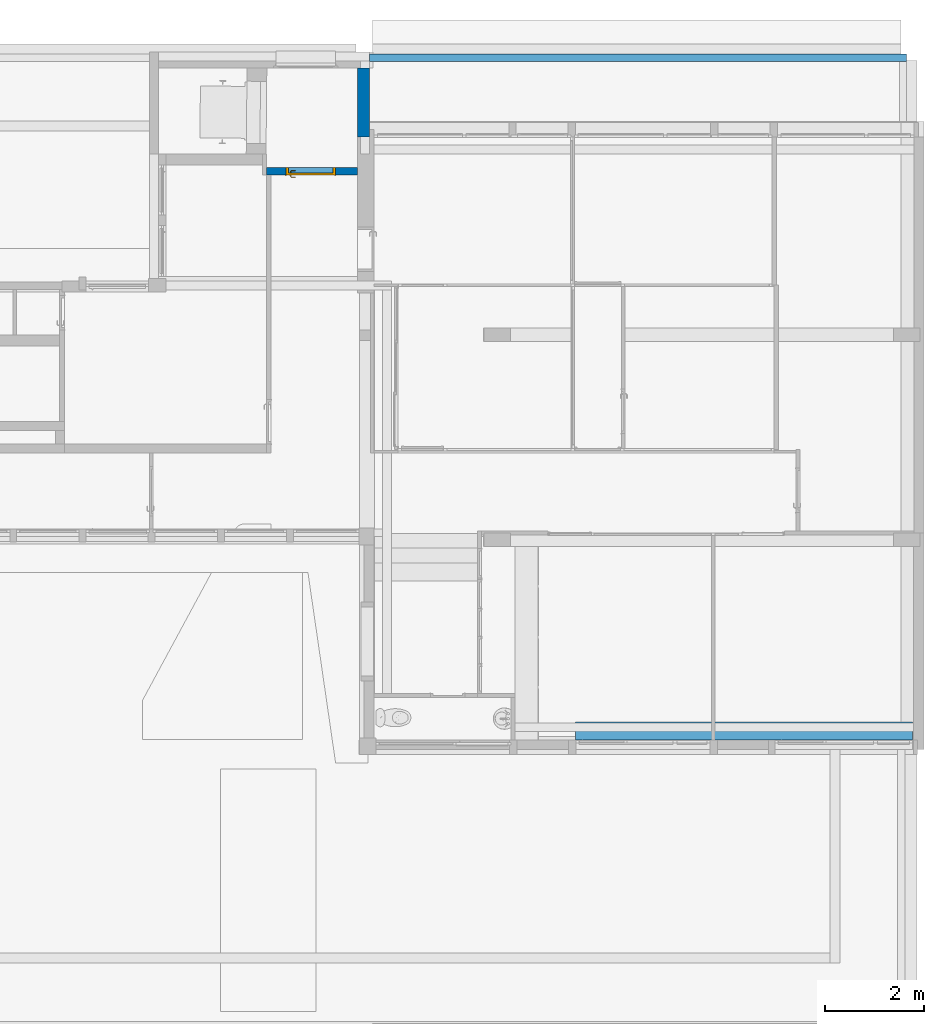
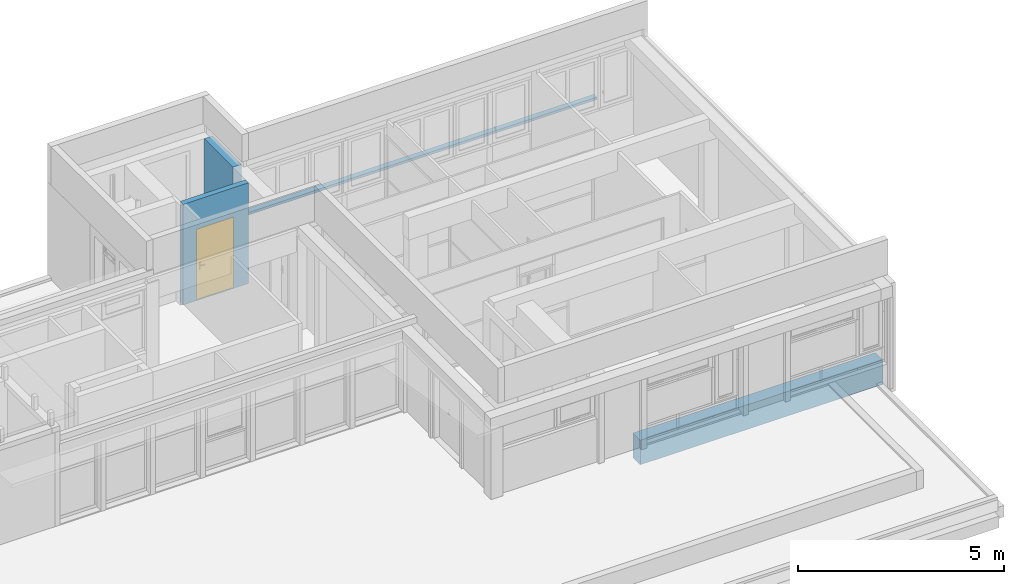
# One storey, part 25 of 49: 4 walls, 1 door, 1 opening.
"""IFC4 building model written with IfcOpenShell, lengths in metres."""

from ifc_helpers import new_model, entity, si_unit, converted_unit, derived_unit, direction, frame, origin, place, context, subcontext, project, spatial, indexed_curve, outline, extrude, polygons, source, transform, mapped, material, material_list, layer, layer_set, constituent, constituent_set, type_object, type_shapes, element, fill, save


model = new_model("IFC4")

# Units and contexts
model_context = context("Model", 3, precision=1e-05, world=origin(), true_north=direction((6.12303176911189e-17, 1.0)))
body_context = subcontext(model_context, "Body", "Model", "MODEL_VIEW")
ifc_project = project(units=[si_unit("LENGTHUNIT", "METRE"), si_unit("AREAUNIT", "SQUARE_METRE"), si_unit("VOLUMEUNIT", "CUBIC_METRE"), converted_unit("PLANEANGLEUNIT", "DEGREE", entity("IfcRatioMeasure", 0.0174532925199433), si_unit("PLANEANGLEUNIT", "RADIAN"), dimensions=[0, 0, 0, 0, 0, 0, 0]), si_unit("MASSUNIT", "GRAM", prefix="KILO"), derived_unit("MASSDENSITYUNIT", [(si_unit("MASSUNIT", "GRAM", prefix="KILO"), 1), (si_unit("LENGTHUNIT", "METRE"), -3)]), derived_unit("MOMENTOFINERTIAUNIT", [(si_unit("LENGTHUNIT", "METRE"), 4)]), si_unit("TIMEUNIT", "SECOND"), si_unit("FREQUENCYUNIT", "HERTZ"), si_unit("THERMODYNAMICTEMPERATUREUNIT", "DEGREE_CELSIUS"), derived_unit("THERMALTRANSMITTANCEUNIT", [(si_unit("MASSUNIT", "GRAM", prefix="KILO"), 1), (si_unit("THERMODYNAMICTEMPERATUREUNIT", "KELVIN"), -1), (si_unit("TIMEUNIT", "SECOND"), -3)]), derived_unit("VOLUMETRICFLOWRATEUNIT", [(si_unit("LENGTHUNIT", "METRE"), 3), (si_unit("TIMEUNIT", "SECOND"), -1)]), si_unit("ELECTRICCURRENTUNIT", "AMPERE"), si_unit("ELECTRICVOLTAGEUNIT", "VOLT"), si_unit("POWERUNIT", "WATT"), si_unit("FORCEUNIT", "NEWTON", prefix="KILO"), si_unit("ILLUMINANCEUNIT", "LUX"), si_unit("LUMINOUSFLUXUNIT", "LUMEN"), si_unit("LUMINOUSINTENSITYUNIT", "CANDELA"), derived_unit("USERDEFINED", [(si_unit("MASSUNIT", "GRAM", prefix="KILO"), -1), (si_unit("LENGTHUNIT", "METRE"), -2), (si_unit("TIMEUNIT", "SECOND"), 3), (si_unit("LUMINOUSFLUXUNIT", "LUMEN"), 1)]), derived_unit("LINEARVELOCITYUNIT", [(si_unit("LENGTHUNIT", "METRE"), 1), (si_unit("TIMEUNIT", "SECOND"), -1)]), si_unit("PRESSUREUNIT", "PASCAL"), derived_unit("USERDEFINED", [(si_unit("LENGTHUNIT", "METRE"), -2), (si_unit("MASSUNIT", "GRAM", prefix="KILO"), 1), (si_unit("TIMEUNIT", "SECOND"), -2)]), derived_unit("LINEARFORCEUNIT", [(si_unit("MASSUNIT", "GRAM", prefix="KILO"), 1), (si_unit("LENGTHUNIT", "METRE"), 1), (si_unit("TIMEUNIT", "SECOND"), -2), (si_unit("LENGTHUNIT", "METRE"), -1)]), derived_unit("PLANARFORCEUNIT", [(si_unit("MASSUNIT", "GRAM", prefix="KILO"), 1), (si_unit("LENGTHUNIT", "METRE"), 1), (si_unit("TIMEUNIT", "SECOND"), -2), (si_unit("LENGTHUNIT", "METRE"), -2)])], contexts=[model_context])

# Site, building, storey
site_placement = place(None, origin())
site = spatial("IfcSite", under=ifc_project, at=site_placement, Name="Default", CompositionType="ELEMENT")
building_placement = place(site_placement, origin())
building = spatial("IfcBuilding", under=site, at=building_placement, Name="HOTEL CONSULAIRE BOULOGNE SUR MER", CompositionType="ELEMENT")
storey_placement = place(building_placement, frame((0.0, 0.0, 6.81974152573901)))
storey = spatial("IfcBuildingStorey", under=building, at=storey_placement, Name="Niveau 2", CompositionType="ELEMENT", Elevation=6.81974152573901)

# Wall, opening, door
ifc_material_1 = material(Name="Mur par défaut", Category="Divers")
ifc_layer_1 = layer(ifc_material_1, 0.15, Name="Mur par défaut", Category="Divers")
ifc_layer_set_1 = layer_set([ifc_layer_1], Name="Mur de base:Générique - Int. 150 mm")
wall_type_1 = type_object("IfcWallType", Name="Mur de base:Générique - Int. 150 mm", PredefinedType="NOTDEFINED", material=ifc_layer_set_1)
wall_1_placement = place(storey_placement, frame((9.50095857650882, -12.3267773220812, -0.0349999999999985)))
wall_1 = element("IfcWall", 1, at=wall_1_placement, inside=storey, type_object=wall_type_1, material=ifc_layer_set_1, Name="Mur de base:Générique - Int. 150 mm", ObjectType="Mur de base:Générique - Int. 150 mm", PredefinedType="NOTDEFINED", context=body_context, shape_type="Tessellation", body=[
    polygons([(7.33919352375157e-16, -0.0750000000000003, -1.08286712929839e-15), (0.0900000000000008, -0.0749999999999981, -1.08286712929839e-15), (1.84, -0.0749999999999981, -1.08286712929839e-15), (1.84, -0.0749999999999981, 2.99200000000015), (0.0900000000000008, -0.0749999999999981, 2.99200000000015), (7.33919352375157e-16, -0.0750000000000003, 2.99200000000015), (1.39137212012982, -0.0749999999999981, 0.0349999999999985), (0.391372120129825, -0.0750000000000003, 0.0349999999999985), (0.391372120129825, -0.0750000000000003, 2.11), (1.39137212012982, -0.0749999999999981, 2.11), (1.74955049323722e-16, 0.0750000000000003, -1.08286712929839e-15), (1.74955049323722e-16, 0.0750000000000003, 2.99200000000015), (1.84, 0.0750000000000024, 2.99200000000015), (1.84, 0.0750000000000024, -1.08286712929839e-15), (1.39137212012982, 0.0750000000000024, 0.0349999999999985), (1.39137212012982, 0.0750000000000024, 2.11), (0.391372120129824, 0.0750000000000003, 2.11), (0.391372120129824, 0.0750000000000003, 0.0349999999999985)], [[[6, 1, 2, 3, 4, 5], [9, 10, 7, 8]], [[14, 11, 12, 13], [16, 17, 18, 15]], [[2, 1, 11, 14, 3]], [[17, 16, 10, 9]], [[3, 14, 13, 4]], [[18, 17, 9, 8]], [[16, 15, 7, 10]], [[12, 11, 1, 6]], [[15, 18, 8, 7]], [[12, 6, 5, 4, 13]]], closed=True),
])
opening_placement = place(wall_1_placement, frame((1.39137212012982, 0.0749999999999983, 0.0349999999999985)))
opening = element("IfcOpeningElement", 2, at=opening_placement, cuts=wall_1, Name="Int. Simple:PP0.93x2.04:1", ObjectType="Opening", PredefinedType="OPENING", context=body_context, shape_type="SweptSolid", body=[
    extrude(outline(indexed_curve([(0.0, -2.26981526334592e-30), (2.075, -2.26981526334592e-30), (2.075, 1.0), (0.0, 1.0), (0.0, -2.26981526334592e-30)], self_intersect=False)), frame((0.0, 0.0, 0.0), z_axis=(0.0, -1.0, 0.0), x_axis=(0.0, 0.0, 1.0)), (0.0, 0.0, 1.0), 0.15),
])
ifc_material_2 = material(Name="Finition Peinture - Blanc satiné", Category="Peinture")
ifc_constituent_1 = constituent(ifc_material_2, Name="Finition Peinture - Blanc satiné", Category="Matériaux")
ifc_material_3 = material(Name="Bois - Panneau de porte", Category="Bois")
ifc_constituent_2 = constituent(ifc_material_3, Name="Bois - Panneau de porte", Category="Matériaux")
ifc_material_4 = material(Name="Bois - Cadre de porte", Category="Bois")
ifc_constituent_3 = constituent(ifc_material_4, Name="Bois - Cadre de porte", Category="Matériaux")
ifc_constituent_set = constituent_set(constituents=[ifc_constituent_1, ifc_constituent_2, ifc_constituent_3], Name="MaterialConstituentSet")
ifc_material_list = material_list([ifc_material_4, ifc_material_4, ifc_material_2, ifc_material_3])
door_type = type_object("IfcDoorType", Name="Int. Simple:PP0.93x2.04", OperationType="NOTDEFINED", PredefinedType="DOOR", material=ifc_material_list)
shared_shape = source(origin(), body_context, "Body", "Tessellation", [
    polygons([(0.075000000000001, -0.00500000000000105, 0.870000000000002), (0.0846472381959, -0.00500000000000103, 0.866003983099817), (0.0950000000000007, -0.00500000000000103, 0.86464101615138), (0.105352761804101, -0.00500000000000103, 0.866003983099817), (0.115, -0.00500000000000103, 0.870000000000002), (0.114999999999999, -0.00500000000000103, 1.08), (0.1053527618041, -0.00500000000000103, 1.08399601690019), (0.0949999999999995, -0.00500000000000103, 1.08535898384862), (0.0846472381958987, -0.00500000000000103, 1.08399601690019), (0.0749999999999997, -0.00500000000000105, 1.08), (0.0749999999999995, -1.04902753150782e-15, 0.870000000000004), (0.0749999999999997, -1.04902753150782e-15, 1.08), (0.0846472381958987, -1.04902753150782e-15, 1.08399601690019), (0.0949999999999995, -1.04056763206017e-15, 1.08535898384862), (0.1053527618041, -1.04056763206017e-15, 1.08399601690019), (0.114999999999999, -1.03210773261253e-15, 1.08), (0.115, -1.03210773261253e-15, 0.870000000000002), (0.105352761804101, -1.04056763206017e-15, 0.866003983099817), (0.0950000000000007, -1.04056763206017e-15, 0.86464101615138), (0.0846472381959, -1.04902753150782e-15, 0.866003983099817)], [[[4, 5, 6, 7, 8, 9, 10, 1, 2, 3]], [[15, 16, 17, 18, 19, 20, 11, 12, 13, 14]], [[11, 20, 2, 1]], [[2, 20, 19, 3]], [[19, 18, 4, 3]], [[18, 17, 5, 4]], [[6, 5, 17, 16]], [[16, 15, 7, 6]], [[7, 15, 14, 8]], [[14, 13, 9, 8]], [[13, 12, 10, 9]], [[1, 10, 12, 11]]], closed=True),
    polygons([(0.114999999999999, 0.0399999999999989, 1.08), (0.1053527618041, 0.0399999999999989, 1.08399601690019), (0.0949999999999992, 0.0399999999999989, 1.08535898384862), (0.0846472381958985, 0.0399999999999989, 1.08399601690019), (0.0749999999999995, 0.0399999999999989, 1.08), (0.075000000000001, 0.0399999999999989, 0.870000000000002), (0.0846472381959, 0.0399999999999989, 0.866003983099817), (0.0950000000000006, 0.0399999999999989, 0.86464101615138), (0.105352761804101, 0.0399999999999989, 0.866003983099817), (0.115, 0.0399999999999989, 0.870000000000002), (0.114999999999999, 0.044999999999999, 1.08), (0.115, 0.044999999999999, 0.870000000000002), (0.105352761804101, 0.0449999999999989, 0.866003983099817), (0.0950000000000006, 0.0449999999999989, 0.86464101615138), (0.0846472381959, 0.0449999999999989, 0.866003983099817), (0.0749999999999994, 0.0449999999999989, 0.870000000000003), (0.0749999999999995, 0.0449999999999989, 1.08), (0.0846472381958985, 0.0449999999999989, 1.08399601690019), (0.0949999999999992, 0.0449999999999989, 1.08535898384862), (0.1053527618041, 0.0449999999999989, 1.08399601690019)], [[[9, 10, 1, 2, 3, 4, 5, 6, 7, 8]], [[20, 11, 12, 13, 14, 15, 16, 17, 18, 19]], [[11, 20, 2, 1]], [[2, 20, 19, 3]], [[19, 18, 4, 3]], [[18, 17, 5, 4]], [[6, 5, 17, 16]], [[16, 15, 7, 6]], [[7, 15, 14, 8]], [[14, 13, 9, 8]], [[13, 12, 10, 9]], [[1, 10, 12, 11]]], closed=True),
    polygons([(0.0889999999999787, -0.00500000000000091, 1.007), (0.0929747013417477, -0.00500000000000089, 1.00778044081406), (0.097025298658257, -0.00500000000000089, 1.00778044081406), (0.101000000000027, -0.00500000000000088, 1.00699999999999), (0.101000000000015, -0.00500000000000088, 0.993000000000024), (0.0970252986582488, -0.00500000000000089, 0.992219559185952), (0.0929747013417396, -0.00500000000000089, 0.99221955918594), (0.0889999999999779, -0.00500000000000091, 0.992999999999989), (0.0889999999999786, -0.0326509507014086, 1.007), (0.0929747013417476, -0.0310045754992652, 1.00778044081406), (0.0970252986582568, -0.0293267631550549, 1.00778044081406), (0.101000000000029, -0.0276803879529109, 1.007), (0.101000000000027, -0.0276803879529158, 0.993000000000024), (0.0970252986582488, -0.0293267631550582, 0.992219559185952), (0.0929747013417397, -0.0310045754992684, 0.99221955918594), (0.0889999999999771, -0.0326509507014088, 0.992999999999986), (0.107377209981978, -0.051028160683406, 1.007), (0.109023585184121, -0.0470534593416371, 1.00778044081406), (0.110701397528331, -0.0430028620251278, 1.00778044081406), (0.112347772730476, -0.0390281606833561, 1.007), (0.112347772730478, -0.0390281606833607, 0.993000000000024), (0.110701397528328, -0.0430028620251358, 0.992219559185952), (0.109023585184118, -0.0470534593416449, 0.99221955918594), (0.107377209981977, -0.0510281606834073, 0.992999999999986), (0.195018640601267, -0.0510281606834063, 1.00699999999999), (0.195018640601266, -0.051028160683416, 0.992999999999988), (0.195018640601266, -0.0470534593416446, 0.99221955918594), (0.195018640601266, -0.0430028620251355, 0.992219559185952), (0.195018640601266, -0.0390281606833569, 0.993000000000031), (0.195018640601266, -0.0390281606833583, 1.007), (0.195018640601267, -0.0430028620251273, 1.00778044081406), (0.195018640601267, -0.0470534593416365, 1.00778044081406), (0.147307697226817, -0.0510281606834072, 1.007), (0.152860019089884, -0.045028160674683, 1.0078786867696), (0.15368320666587, -0.039028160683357, 1.007), (0.147307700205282, -0.0510281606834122, 0.992999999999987), (0.152860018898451, -0.0450281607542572, 0.992121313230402), (0.153683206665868, -0.0390281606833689, 0.993000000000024)], [[[2, 3, 4, 5, 6, 7, 8, 1]], [[21, 20, 35, 30, 29, 38]], [[9, 10, 2, 1]], [[10, 18, 19, 11, 3, 2]], [[11, 12, 4, 3]], [[5, 4, 12, 13]], [[26, 27, 28, 29, 30, 31, 32, 25]], [[13, 14, 6, 5]], [[14, 22, 23, 15, 7, 6]], [[15, 16, 8, 7]], [[1, 8, 16, 9]], [[17, 18, 10, 9]], [[19, 20, 12, 11]], [[13, 12, 20, 21]], [[21, 22, 14, 13]], [[23, 24, 16, 15]], [[9, 16, 24, 17]], [[33, 32, 34]], [[25, 32, 33]], [[18, 17, 33]], [[34, 35, 19]], [[20, 19, 35]], [[35, 31, 30]], [[32, 31, 34]], [[31, 35, 34]], [[18, 33, 34]], [[18, 34, 19]], [[38, 28, 37]], [[36, 37, 27]], [[21, 38, 22]], [[38, 29, 28]], [[26, 36, 27]], [[24, 23, 36]], [[36, 23, 37]], [[23, 22, 37]], [[22, 38, 37]], [[27, 37, 28]], [[17, 24, 36, 26, 25, 33]]], closed=True),
    polygons([(0.10100000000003, 0.0449999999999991, 0.993000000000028), (0.101000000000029, 0.0449999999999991, 1.007), (0.0970252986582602, 0.0449999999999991, 1.00778044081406), (0.092974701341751, 0.0449999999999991, 1.00778044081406), (0.0889999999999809, 0.0449999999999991, 1.007), (0.0889999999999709, 0.0449999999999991, 0.992999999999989), (0.0929747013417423, 0.0449999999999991, 0.99221955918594), (0.0970252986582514, 0.0449999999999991, 0.992219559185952), (0.10100000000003, 0.067485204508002, 0.993000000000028), (0.10100000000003, 0.0674852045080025, 1.007), (0.0970252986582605, 0.0691315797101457, 1.00778044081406), (0.0929747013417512, 0.070809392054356, 1.00778044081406), (0.088999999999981, 0.0724557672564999, 1.007), (0.0889999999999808, 0.0724557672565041, 0.992999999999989), (0.092974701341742, 0.0708093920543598, 0.99221955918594), (0.0970252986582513, 0.0691315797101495, 0.992219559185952), (0.112485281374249, 0.0789704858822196, 0.993000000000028), (0.112485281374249, 0.0789704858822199, 1.007), (0.110838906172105, 0.0829451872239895, 1.00778044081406), (0.109161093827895, 0.0869957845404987, 1.00778044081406), (0.107514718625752, 0.090970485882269, 1.007), (0.107514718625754, 0.090970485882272, 0.992999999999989), (0.109161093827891, 0.0869957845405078, 0.99221955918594), (0.110838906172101, 0.0829451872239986, 0.992219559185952), (0.195045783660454, 0.0789704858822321, 0.993000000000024), (0.195045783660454, 0.0829451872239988, 0.992219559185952), (0.195045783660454, 0.086995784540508, 0.99221955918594), (0.195045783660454, 0.0909704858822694, 0.992999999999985), (0.195045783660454, 0.0909704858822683, 1.007), (0.195045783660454, 0.0869957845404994, 1.00778044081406), (0.195045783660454, 0.0829451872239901, 1.00778044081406), (0.195045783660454, 0.0789704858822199, 1.007), (0.147445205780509, 0.0909704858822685, 1.007), (0.152942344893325, 0.0849704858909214, 1.0078786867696), (0.153765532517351, 0.0789704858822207, 1.007), (0.147445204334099, 0.0909704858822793, 0.992999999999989), (0.152942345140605, 0.0849704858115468, 0.992121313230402), (0.153765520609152, 0.0789704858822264, 0.993000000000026)], [[[4, 5, 6, 7, 8, 1, 2, 3]], [[18, 17, 38, 25, 32, 35]], [[2, 1, 9, 10]], [[25, 26, 27, 28, 29, 30, 31, 32]], [[10, 11, 3, 2]], [[11, 19, 20, 12, 4, 3]], [[12, 13, 5, 4]], [[6, 5, 13, 14]], [[14, 15, 7, 6]], [[15, 23, 24, 16, 8, 7]], [[16, 9, 1, 8]], [[10, 9, 17, 18]], [[18, 19, 11, 10]], [[20, 21, 13, 12]], [[14, 13, 21, 22]], [[22, 23, 15, 14]], [[24, 17, 9, 16]], [[35, 31, 34]], [[33, 34, 30]], [[18, 35, 19]], [[35, 32, 31]], [[29, 33, 30]], [[21, 20, 33]], [[33, 20, 34]], [[20, 19, 34]], [[19, 35, 34]], [[30, 34, 31]], [[21, 33, 29, 28, 36, 22]], [[36, 27, 37]], [[28, 27, 36]], [[23, 22, 36]], [[37, 38, 24]], [[17, 24, 38]], [[38, 26, 25]], [[27, 26, 37]], [[26, 38, 37]], [[23, 36, 37]], [[23, 37, 24]]], closed=True),
    polygons([(0.0349999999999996, 0.04, 2.04), (0.965, 0.04, 2.04), (0.965, 0.04, 0.0), (0.0349999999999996, 0.04, 0.0), (0.0349999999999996, 5.07593966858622e-17, 2.04), (0.0349999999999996, 5.07593966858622e-17, 0.0), (0.965, 5.07593966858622e-17, 0.0), (0.965, 5.07593966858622e-17, 2.04)], [[[4, 1, 2, 3]], [[7, 8, 5, 6]], [[2, 1, 5, 8]], [[3, 2, 8, 7]], [[4, 3, 7, 6]], [[1, 4, 6, 5]]], closed=True),
    polygons([(-1.53631773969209e-14, 1.69197988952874e-17, 0.0), (-1.53631773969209e-14, 0.150000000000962, 0.0), (0.0499999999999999, 0.150000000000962, 0.0), (0.0499999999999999, 0.0400000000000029, 0.0), (0.0349999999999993, 0.0400000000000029, 0.0), (0.0349999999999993, 1.69197988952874e-17, 0.0), (-1.51601398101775e-14, 1.69197988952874e-17, 2.07500000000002), (-1.51601398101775e-14, 0.150000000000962, 2.07500000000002), (1.00000000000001, 0.150000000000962, 2.07500000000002), (1.00000000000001, 0.150000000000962, 3.88816484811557e-25), (0.95, 0.150000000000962, 3.59657255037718e-24), (0.95, 0.150000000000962, 2.025), (0.05, 0.150000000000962, 2.025), (0.05, 0.0400000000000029, 2.025), (0.95, 0.0400000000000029, 2.025), (0.95, 0.0400000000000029, 2.24110802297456e-24), (0.965, 0.0400000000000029, -4.78103047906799e-25), (0.965, 0.0400000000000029, 2.04), (0.0349999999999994, 0.0400000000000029, 2.04), (0.0349999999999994, 1.69197988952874e-17, 2.04), (0.965, 1.69197988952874e-17, 2.04), (0.965, 1.69197988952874e-17, -2.84752548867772e-24), (1.00000000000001, 1.69197988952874e-17, -3.95490158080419e-25), (1.00000000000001, 1.69197988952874e-17, 2.07500000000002)], [[[5, 6, 1, 2, 3, 4]], [[11, 10, 23, 22, 17, 16]], [[14, 13, 12, 15]], [[20, 19, 18, 21]], [[2, 1, 7, 8]], [[15, 12, 11, 16]], [[21, 18, 17, 22]], [[3, 2, 8, 9, 10, 11, 12, 13]], [[4, 3, 13, 14]], [[6, 5, 19, 20]], [[9, 24, 23, 10]], [[16, 17, 18, 19, 5, 4, 14, 15]], [[22, 23, 24, 7, 1, 6, 20, 21]], [[8, 7, 24, 9]]], closed=True),
    polygons([(0.0149999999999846, 0.150000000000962, 0.0), (-0.0150000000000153, 0.150000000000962, 0.0), (-0.0150000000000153, 0.155000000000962, 0.0), (0.0149999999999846, 0.155000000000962, 0.0), (0.0149999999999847, 0.150000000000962, 2.06000000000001), (0.98499999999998, 0.150000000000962, 2.06000000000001), (0.98499999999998, 0.150000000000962, -1.80158911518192e-24), (1.01499999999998, 0.150000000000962, -9.00794238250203e-25), (1.01499999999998, 0.150000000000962, 2.09000000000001), (-0.0150000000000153, 0.150000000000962, 2.09000000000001), (-0.0150000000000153, 0.155000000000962, 2.09000000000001), (1.01499999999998, 0.155000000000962, 2.09000000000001), (1.01499999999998, 0.155000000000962, -5.48159974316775e-24), (0.98499999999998, 0.155000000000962, -4.34281663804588e-24), (0.98499999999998, 0.155000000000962, 2.06000000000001), (0.0149999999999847, 0.155000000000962, 2.06000000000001)], [[[1, 2, 3, 4]], [[14, 13, 8, 7]], [[5, 16, 15, 6]], [[7, 8, 9, 10, 2, 1, 5, 6]], [[3, 2, 10, 11]], [[6, 15, 14, 7]], [[4, 3, 11, 12, 13, 14, 15, 16]], [[1, 4, 16, 5]], [[12, 9, 8, 13]], [[11, 10, 9, 12]]], closed=True),
    polygons([(0.0149999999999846, -0.00499999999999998, 0.0), (-0.0150000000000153, -0.00499999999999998, 0.0), (-0.0150000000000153, 1.69197988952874e-17, 0.0), (0.0149999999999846, 1.69197988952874e-17, 0.0), (0.98499999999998, -0.00499999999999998, 5.41433564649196e-16), (0.98499999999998, 1.69197988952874e-17, 5.41433564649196e-16), (1.01499999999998, 1.69197988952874e-17, 5.41433564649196e-16), (1.01499999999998, -0.00499999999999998, 5.41433564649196e-16), (0.0149999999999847, -0.00499999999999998, 2.06000000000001), (0.98499999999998, -0.00499999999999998, 2.06000000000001), (1.01499999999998, -0.00499999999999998, 2.09000000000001), (-0.0150000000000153, -0.00499999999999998, 2.09000000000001), (-0.0150000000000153, 1.69197988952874e-17, 2.09000000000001), (1.01499999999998, 1.69197988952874e-17, 2.09000000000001), (0.98499999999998, 1.69197988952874e-17, 2.06000000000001), (0.0149999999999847, 1.69197988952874e-17, 2.06000000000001)], [[[2, 3, 4, 1]], [[6, 7, 8, 5]], [[9, 16, 15, 10]], [[5, 8, 11, 12, 2, 1, 9, 10]], [[3, 2, 12, 13]], [[10, 15, 6, 5]], [[4, 3, 13, 14, 7, 6, 15, 16]], [[1, 4, 16, 9]], [[14, 11, 8, 7]], [[13, 12, 11, 14]]], closed=True),
])
type_shapes(door_type, [shared_shape])
door_placement = place(opening_placement, frame((-1.0, -0.15, 0.0)))
door = element("IfcDoor", 3, at=door_placement, inside=storey, type_object=door_type, material=ifc_constituent_set, Name="Int. Simple:PP0.93x2.04", ObjectType="Int. Simple:PP0.93x2.04", OperationType="NOTDEFINED", OverallHeight=2.075, OverallWidth=1.0, PredefinedType="DOOR", context=body_context, shape_type="MappedRepresentation", body=[
    mapped(shared_shape, transform((0.0, 0.0, 0.0), scale=1.0)),
])
fill(opening, door)

# Walls
ifc_layer_2 = layer(ifc_material_1, 0.36, Name="Mur par défaut", Category="Divers")
ifc_layer_set_2 = layer_set([ifc_layer_2], Name="Mur de base:Générique - Int. 360")
wall_type_2 = type_object("IfcWallType", Name="Mur de base:Générique - Int. 360", PredefinedType="NOTDEFINED", material=ifc_layer_set_2)
wall_2_placement = place(storey_placement, frame((22.562935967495, -23.6471007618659, -0.0349999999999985), z_axis=(0.0, 0.0, 1.0), x_axis=(-1.0, 0.0, 0.0)))
element("IfcWall", 4, at=wall_2_placement, inside=storey, type_object=wall_type_2, material=ifc_layer_set_2, Name="Mur de base:Générique - Int. 360", ObjectType="Mur de base:Générique - Int. 360", PredefinedType="NOTDEFINED", context=body_context, shape_type="SweptSolid", body=[
    extrude(outline(indexed_curve([(6.81524899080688, 0.179999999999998), (-5.6700807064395e-16, 0.179999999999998), (5.6700807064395e-16, -0.179999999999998), (6.81524899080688, -0.179999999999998), (6.81524899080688, 0.179999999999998)], self_intersect=False)), origin(), (0.0, 0.0, 1.0), 0.728999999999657),
])
ifc_layer_3 = layer(ifc_material_1, 0.24, Name="Mur par défaut", Category="Divers")
ifc_layer_set_3 = layer_set([ifc_layer_3], Name="Mur de base:Générique - Ext. 240 mm")
wall_type_3 = type_object("IfcWallType", Name="Mur de base:Générique - Ext. 240 mm", PredefinedType="NOTDEFINED", material=ifc_layer_set_3)
wall_3_placement = place(storey_placement, frame((11.4609585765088, -10.24032416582, -0.0349999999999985), z_axis=(0.0, 0.0, 1.0), x_axis=(0.0, -1.0, 0.0)))
element("IfcWall", 5, at=wall_3_placement, inside=storey, type_object=wall_type_3, material=ifc_layer_set_3, Name="Mur de base:Générique - Ext. 240 mm", ObjectType="Mur de base:Générique - Ext. 240 mm", PredefinedType="NOTDEFINED", context=body_context, shape_type="SweptSolid", body=[
    extrude(outline(indexed_curve([(1.39609962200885, 0.120000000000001), (-1.99846663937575e-16, 0.120000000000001), (1.99846663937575e-16, -0.120000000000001), (1.39609962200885, -0.120000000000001), (1.39609962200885, 0.120000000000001)], self_intersect=False)), origin(), (0.0, 0.0, 1.0), 2.992),
])
ifc_layer_4 = layer(ifc_material_1, 0.15, Name="Mur par défaut", Category="Divers")
ifc_layer_set_4 = layer_set([ifc_layer_4], Name="Mur de base:Générique - Ext. 150 mm")
wall_type_4 = type_object("IfcWallType", Name="Mur de base:Générique - Ext. 150 mm", PredefinedType="NOTDEFINED", material=ifc_layer_set_4)
wall_4_placement = place(storey_placement, frame((11.4609585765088, -10.0296323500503, -0.18799999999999)))
element("IfcWall", 6, at=wall_4_placement, inside=storey, type_object=wall_type_4, material=ifc_layer_set_4, Name="Mur de base:Générique - Ext. 150 mm", ObjectType="Mur de base:Générique - Ext. 150 mm", PredefinedType="NOTDEFINED", context=body_context, shape_type="SweptSolid", body=[
    extrude(outline(indexed_curve([(-0.0600000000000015, -0.0750000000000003), (0.0599999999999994, -0.0750000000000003), (0.0599999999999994, 0.0750000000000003), (-0.0600000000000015, 0.0750000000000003), (-0.0600000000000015, -0.0750000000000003)], self_intersect=False)), frame((0.0600000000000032, 0.0, 0.0)), (0.0, 0.0, 1.0), 0.15299999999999),
    extrude(outline(indexed_curve([(-0.0599999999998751, -4.37747188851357), (0.0900000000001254, -4.37747188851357), (0.0899999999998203, 6.49120783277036), (-0.0600000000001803, 6.49120783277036), (-0.0599999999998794, -4.22747188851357), (-0.0599999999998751, -4.37747188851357)], self_intersect=False)), frame((6.61120783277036, -0.0150000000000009, 0.329999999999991), z_axis=(0.0, 0.0, 1.0), x_axis=(0.0, 1.0, 0.0)), (0.0, 0.0, 1.0), 0.0750000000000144),
])

save(model, "model.ifc")
